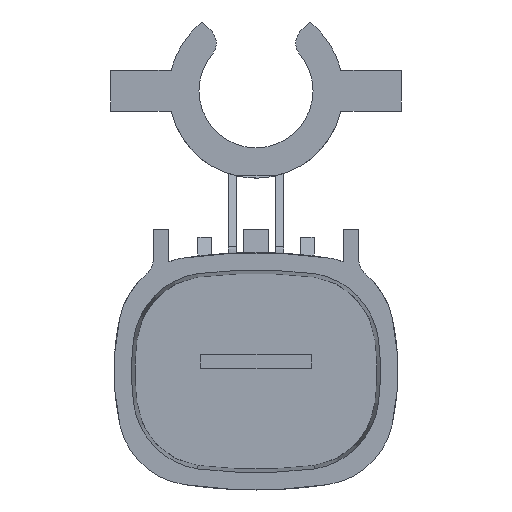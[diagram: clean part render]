
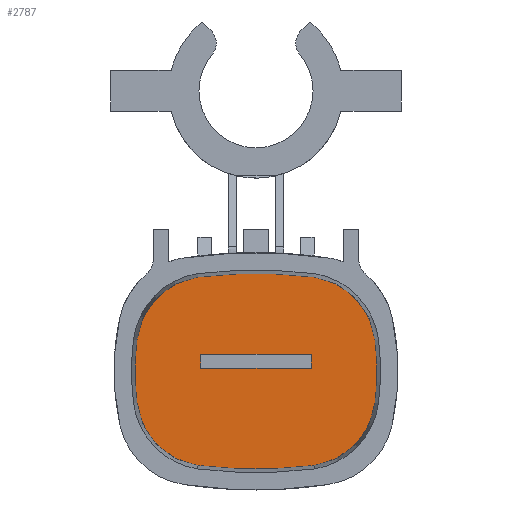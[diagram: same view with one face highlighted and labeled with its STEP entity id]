
A CAD part, left-side view. The second image highlights one B-rep face of the part: STEP entity #2787.
In plain terms, the highlighted planar face has unit normal (-1, 0, 0).
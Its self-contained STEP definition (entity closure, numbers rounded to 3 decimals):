
#2360=CARTESIAN_POINT('Vertex',(-1.,-10.228,15.384)) ;
#2377=CARTESIAN_POINT('Vertex',(-1.,-4.987,20.798)) ;
#2380=CARTESIAN_POINT('Axis2P3D Location',(-1.,-3.979,14.579)) ;
#2401=CARTESIAN_POINT('Vertex',(-1.,-10.228,10.016)) ;
#2411=CARTESIAN_POINT('Axis2P3D Location',(-1.,10.6,12.7)) ;
#2462=CARTESIAN_POINT('Vertex',(-1.,4.987,20.798)) ;
#2465=CARTESIAN_POINT('Axis2P3D Location',(-1.,0.,-20.2)) ;
#2487=CARTESIAN_POINT('Vertex',(-1.,-4.987,4.602)) ;
#2497=CARTESIAN_POINT('Axis2P3D Location',(-1.,-3.979,10.821)) ;
#2559=CARTESIAN_POINT('Vertex',(-1.,10.228,15.384)) ;
#2562=CARTESIAN_POINT('Axis2P3D Location',(-1.,3.979,14.579)) ;
#2583=CARTESIAN_POINT('Vertex',(-1.,4.987,4.602)) ;
#2593=CARTESIAN_POINT('Axis2P3D Location',(-1.,0.,45.6)) ;
#2655=CARTESIAN_POINT('Vertex',(-1.,10.228,10.016)) ;
#2658=CARTESIAN_POINT('Axis2P3D Location',(-1.,-10.6,12.7)) ;
#2680=CARTESIAN_POINT('Axis2P3D Location',(-1.,3.979,10.821)) ;
#2738=CARTESIAN_POINT('Axis2P3D Location',(-1.,-4.469,17.619)) ;
#2753=CARTESIAN_POINT('Line Origine',(-1.,0.,14.15)) ;
#2757=CARTESIAN_POINT('Vertex',(-1.,4.75,14.15)) ;
#2759=CARTESIAN_POINT('Vertex',(-1.,-4.75,14.15)) ;
#2762=CARTESIAN_POINT('Line Origine',(-1.,-4.75,13.55)) ;
#2766=CARTESIAN_POINT('Vertex',(-1.,-4.75,12.95)) ;
#2769=CARTESIAN_POINT('Line Origine',(-1.,0.,12.95)) ;
#2773=CARTESIAN_POINT('Vertex',(-1.,4.75,12.95)) ;
#2776=CARTESIAN_POINT('Line Origine',(-1.,4.75,13.55)) ;
#2381=DIRECTION('Axis2P3D Direction',(1.,0.,-0.)) ;
#2412=DIRECTION('Axis2P3D Direction',(1.,0.,-0.)) ;
#2466=DIRECTION('Axis2P3D Direction',(1.,0.,-0.)) ;
#2498=DIRECTION('Axis2P3D Direction',(1.,-0.,0.)) ;
#2563=DIRECTION('Axis2P3D Direction',(1.,0.,-0.)) ;
#2594=DIRECTION('Axis2P3D Direction',(1.,-0.,0.)) ;
#2659=DIRECTION('Axis2P3D Direction',(1.,-0.,0.)) ;
#2681=DIRECTION('Axis2P3D Direction',(1.,-0.,0.)) ;
#2739=DIRECTION('Axis2P3D Direction',(1.,0.,-0.)) ;
#2740=DIRECTION('Axis2P3D XDirection',(0.,-0.159,0.987)) ;
#2754=DIRECTION('Vector Direction',(0.,1.,0.)) ;
#2763=DIRECTION('Vector Direction',(0.,0.,-1.)) ;
#2770=DIRECTION('Vector Direction',(0.,-1.,0.)) ;
#2777=DIRECTION('Vector Direction',(0.,0.,1.)) ;
#2382=AXIS2_PLACEMENT_3D('Circle Axis2P3D',#2380,#2381,$) ;
#2413=AXIS2_PLACEMENT_3D('Circle Axis2P3D',#2411,#2412,$) ;
#2467=AXIS2_PLACEMENT_3D('Circle Axis2P3D',#2465,#2466,$) ;
#2499=AXIS2_PLACEMENT_3D('Circle Axis2P3D',#2497,#2498,$) ;
#2564=AXIS2_PLACEMENT_3D('Circle Axis2P3D',#2562,#2563,$) ;
#2595=AXIS2_PLACEMENT_3D('Circle Axis2P3D',#2593,#2594,$) ;
#2660=AXIS2_PLACEMENT_3D('Circle Axis2P3D',#2658,#2659,$) ;
#2682=AXIS2_PLACEMENT_3D('Circle Axis2P3D',#2680,#2681,$) ;
#2741=AXIS2_PLACEMENT_3D('Plane Axis2P3D',#2738,#2739,#2740) ;
#2744=ORIENTED_EDGE('',*,*,#2501,.F.) ;
#2745=ORIENTED_EDGE('',*,*,#2415,.F.) ;
#2746=ORIENTED_EDGE('',*,*,#2384,.F.) ;
#2747=ORIENTED_EDGE('',*,*,#2469,.F.) ;
#2748=ORIENTED_EDGE('',*,*,#2566,.F.) ;
#2749=ORIENTED_EDGE('',*,*,#2662,.F.) ;
#2750=ORIENTED_EDGE('',*,*,#2684,.F.) ;
#2751=ORIENTED_EDGE('',*,*,#2597,.F.) ;
#2782=ORIENTED_EDGE('',*,*,#2761,.T.) ;
#2783=ORIENTED_EDGE('',*,*,#2768,.T.) ;
#2784=ORIENTED_EDGE('',*,*,#2775,.T.) ;
#2785=ORIENTED_EDGE('',*,*,#2780,.T.) ;
#2786=FACE_BOUND('',#2781,.T.) ;
#2755=VECTOR('Line Direction',#2754,1.) ;
#2764=VECTOR('Line Direction',#2763,1.) ;
#2771=VECTOR('Line Direction',#2770,1.) ;
#2778=VECTOR('Line Direction',#2777,1.) ;
#2787=ADVANCED_FACE('BODY \X2\306E7D50679C\X0\',(#2752,#2786),#2742,.F.) ;
#2383=CIRCLE('generated circle',#2382,6.3) ;
#2414=CIRCLE('generated circle',#2413,21.) ;
#2468=CIRCLE('generated circle',#2467,41.3) ;
#2500=CIRCLE('generated circle',#2499,6.3) ;
#2565=CIRCLE('generated circle',#2564,6.3) ;
#2596=CIRCLE('generated circle',#2595,41.3) ;
#2661=CIRCLE('generated circle',#2660,21.) ;
#2683=CIRCLE('generated circle',#2682,6.3) ;
#2384=EDGE_CURVE('',#2378,#2361,#2383,.T.) ;
#2415=EDGE_CURVE('',#2361,#2402,#2414,.T.) ;
#2469=EDGE_CURVE('',#2463,#2378,#2468,.T.) ;
#2501=EDGE_CURVE('',#2402,#2488,#2500,.T.) ;
#2566=EDGE_CURVE('',#2560,#2463,#2565,.T.) ;
#2597=EDGE_CURVE('',#2488,#2584,#2596,.T.) ;
#2662=EDGE_CURVE('',#2656,#2560,#2661,.T.) ;
#2684=EDGE_CURVE('',#2584,#2656,#2683,.T.) ;
#2761=EDGE_CURVE('',#2758,#2760,#2756,.F.) ;
#2768=EDGE_CURVE('',#2760,#2767,#2765,.T.) ;
#2775=EDGE_CURVE('',#2767,#2774,#2772,.F.) ;
#2780=EDGE_CURVE('',#2774,#2758,#2779,.T.) ;
#2743=EDGE_LOOP('',(#2744,#2745,#2746,#2747,#2748,#2749,#2750,#2751)) ;
#2781=EDGE_LOOP('',(#2782,#2783,#2784,#2785)) ;
#2752=FACE_OUTER_BOUND('',#2743,.T.) ;
#2756=LINE('Line',#2753,#2755) ;
#2765=LINE('Line',#2762,#2764) ;
#2772=LINE('Line',#2769,#2771) ;
#2779=LINE('Line',#2776,#2778) ;
#2742=PLANE('',#2741) ;
#2361=VERTEX_POINT('',#2360) ;
#2378=VERTEX_POINT('',#2377) ;
#2402=VERTEX_POINT('',#2401) ;
#2463=VERTEX_POINT('',#2462) ;
#2488=VERTEX_POINT('',#2487) ;
#2560=VERTEX_POINT('',#2559) ;
#2584=VERTEX_POINT('',#2583) ;
#2656=VERTEX_POINT('',#2655) ;
#2758=VERTEX_POINT('',#2757) ;
#2760=VERTEX_POINT('',#2759) ;
#2767=VERTEX_POINT('',#2766) ;
#2774=VERTEX_POINT('',#2773) ;
